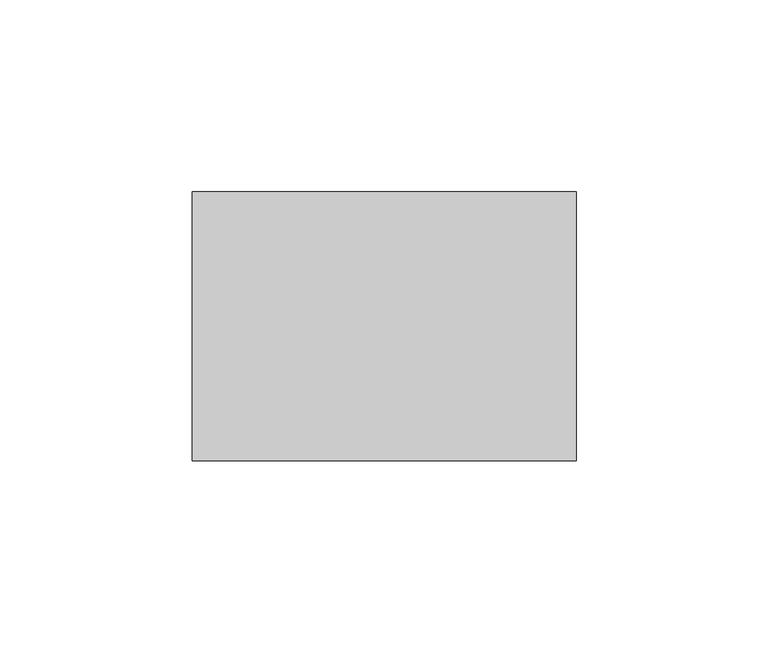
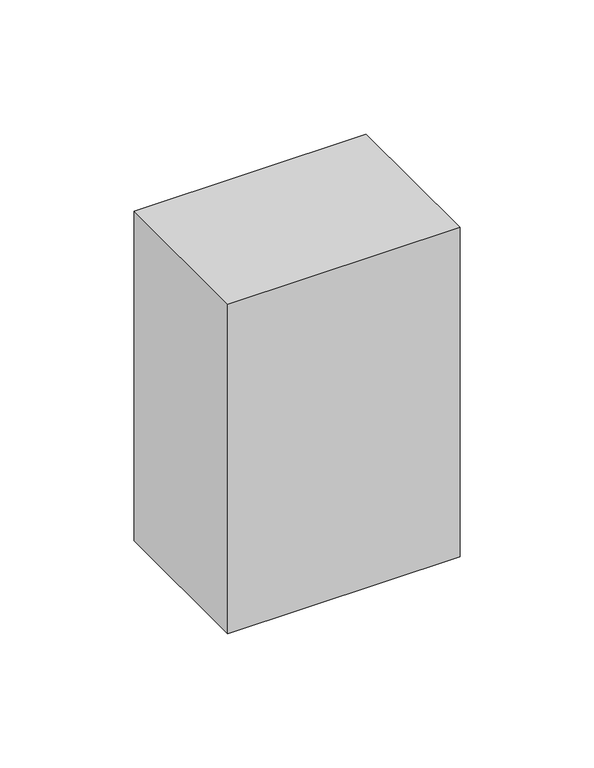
"""IFC4 building model written with IfcOpenShell, lengths in millimetres: proxy geometry, Damper actuator.CC : Damper actuator.CC."""

from ifc_helpers import new_model, si_unit, origin, origin_with_axes, place, context, project, spatial, polyline, outline, extrude, source, transform, mapped, element, save


def electrical_equipment_4d0960ad(model_context):
    return source(origin(), model_context, "Body", "SweptSolid", [
        extrude(outline(polyline([(50.0, -35.0), (-50.0, -35.0), (-50.0, 35.0), (50.0, 35.0), (50.0, -35.0)])), origin_with_axes(), (0.0, 0.0, 1.0), 150.0),
    ])


if __name__ == "__main__":
    model = new_model("IFC4")
    model_context = context("Model", 3, world=origin())
    ifc_project = project(units=[si_unit("LENGTHUNIT", "METRE", prefix="MILLI")], contexts=[model_context])
    site = spatial("IfcSite", under=ifc_project)
    building = spatial("IfcBuilding", under=site)
    placement = place(None, origin())
    electrical_equipment_shape = electrical_equipment_4d0960ad(model_context)
    element("IfcBuildingElementProxy", 1, Name="Damper actuator.CC : Damper actuator.CC", ObjectType="Damper actuator.CC : Damper actuator.CC", at=placement, inside=building, context=model_context, shape_type="MappedRepresentation", body=[
        mapped(electrical_equipment_shape, transform((0.0, 0.0, 0.0), x_axis=(1.0, 0.0, 0.0), y_axis=(0.0, 1.0, 0.0), z_axis=(0.0, 0.0, 1.0))),
    ])
    save(model, "model.ifc")
